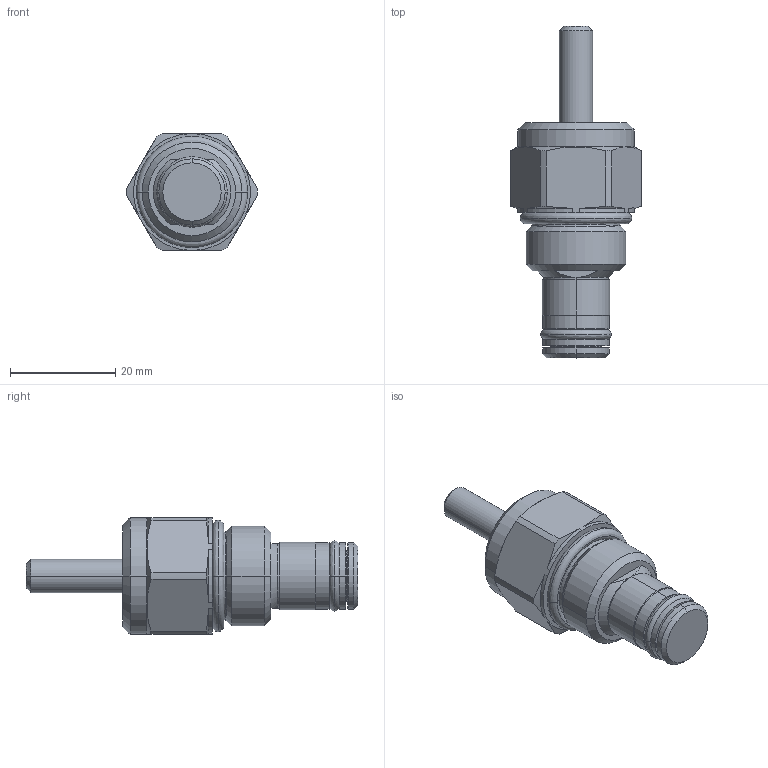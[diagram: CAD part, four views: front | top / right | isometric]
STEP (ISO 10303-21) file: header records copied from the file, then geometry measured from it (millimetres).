
FILE_DESCRIPTION((''),'2;1');
FILE_NAME('5270800_SW0001','2009-02-04T',('jcs'),(''),'PRO/ENGINEER BY PARAMETRIC TECHNOLOGY CORPORATION, 2008010','PRO/ENGINEER BY PARAMETRIC TECHNOLOGY CORPORATION, 2008010','');
FILE_SCHEMA(('CONFIG_CONTROL_DESIGN'));
Length unit declared in the file: inch
Products named in the file (1): 5270800_SW0001
Bounding box: 24.93 x 63.17 x 22.19 mm (x, y, z)
Volume: 12755.7 mm3; surface area: 4556 mm2
Topology: 4 solids, 4 shells, 100 faces, 222 edges, 130 vertices
Faces by surface type: cylinder 34, cone 26, plane 16, revolution 16, torus 8
Entity records: 3440 total; most frequent: CARTESIAN_POINT 1176, DIRECTION 480, ORIENTED_EDGE 444, EDGE_CURVE 222, AXIS2_PLACEMENT_3D 196, VERTEX_POINT 130, CIRCLE 112, EDGE_LOOP 106
